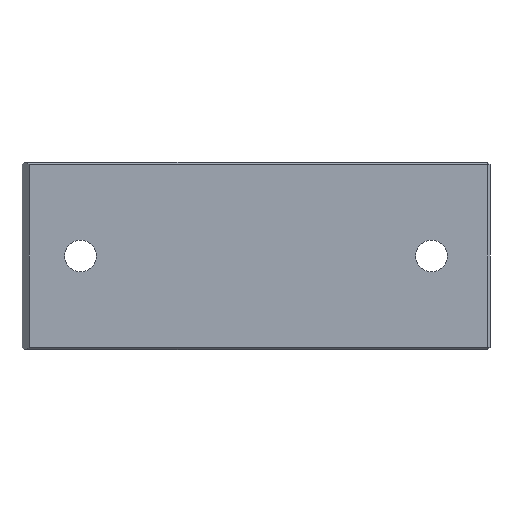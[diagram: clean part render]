
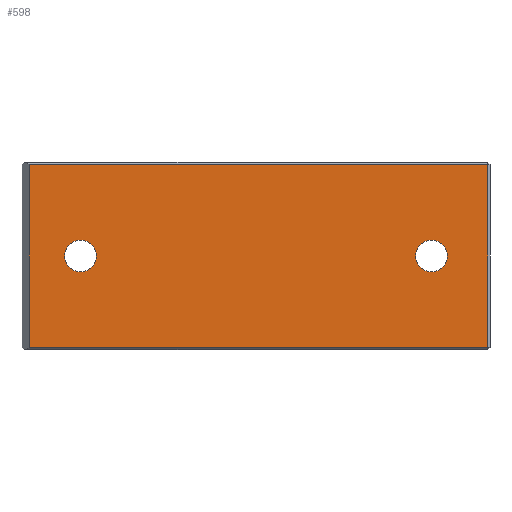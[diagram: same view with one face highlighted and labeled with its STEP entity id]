
A CAD part, front view. The second image highlights one B-rep face of the part: STEP entity #598.
In plain terms, the highlighted planar face has unit normal (0, -1, 0).
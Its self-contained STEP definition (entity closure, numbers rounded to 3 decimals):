
#21=FACE_BOUND('',#117,.T.);
#22=FACE_BOUND('',#118,.T.);
#47=PLANE('',#665);
#79=FACE_OUTER_BOUND('',#116,.T.);
#116=EDGE_LOOP('',(#501,#502,#503,#504));
#117=EDGE_LOOP('',(#505));
#118=EDGE_LOOP('',(#506));
#139=LINE('',#884,#198);
#145=LINE('',#895,#204);
#148=LINE('',#901,#207);
#180=LINE('',#971,#239);
#198=VECTOR('',#720,10.);
#204=VECTOR('',#730,10.);
#207=VECTOR('',#735,10.);
#239=VECTOR('',#807,10.);
#257=CIRCLE('',#666,6.75);
#258=CIRCLE('',#667,6.75);
#275=VERTEX_POINT('',#877);
#277=VERTEX_POINT('',#882);
#280=VERTEX_POINT('',#890);
#281=VERTEX_POINT('',#897);
#301=VERTEX_POINT('',#978);
#302=VERTEX_POINT('',#980);
#325=EDGE_CURVE('',#277,#275,#139,.T.);
#331=EDGE_CURVE('',#275,#280,#145,.T.);
#334=EDGE_CURVE('',#280,#281,#148,.T.);
#370=EDGE_CURVE('',#281,#277,#180,.T.);
#374=EDGE_CURVE('',#301,#301,#257,.T.);
#375=EDGE_CURVE('',#302,#302,#258,.T.);
#501=ORIENTED_EDGE('',*,*,#325,.F.);
#502=ORIENTED_EDGE('',*,*,#370,.F.);
#503=ORIENTED_EDGE('',*,*,#334,.F.);
#504=ORIENTED_EDGE('',*,*,#331,.F.);
#505=ORIENTED_EDGE('',*,*,#374,.T.);
#506=ORIENTED_EDGE('',*,*,#375,.T.);
#598=ADVANCED_FACE('',(#79,#21,#22),#47,.F.);
#665=AXIS2_PLACEMENT_3D('',#977,#815,#816);
#666=AXIS2_PLACEMENT_3D('',#979,#817,#818);
#667=AXIS2_PLACEMENT_3D('',#981,#819,#820);
#720=DIRECTION('',(1.,0.,0.));
#730=DIRECTION('',(0.,0.,-1.));
#735=DIRECTION('',(-1.,0.,0.));
#807=DIRECTION('',(0.,0.,1.));
#815=DIRECTION('center_axis',(0.,1.,0.));
#816=DIRECTION('ref_axis',(0.,0.,1.));
#817=DIRECTION('center_axis',(0.,1.,0.));
#818=DIRECTION('ref_axis',(1.,0.,0.));
#819=DIRECTION('center_axis',(0.,1.,0.));
#820=DIRECTION('ref_axis',(1.,0.,0.));
#877=CARTESIAN_POINT('',(199.,0.,79.));
#882=CARTESIAN_POINT('',(3.,0.,79.));
#884=CARTESIAN_POINT('',(50.,0.,79.));
#890=CARTESIAN_POINT('',(199.,0.,1.));
#895=CARTESIAN_POINT('',(199.,0.,60.));
#897=CARTESIAN_POINT('',(3.,0.,1.));
#901=CARTESIAN_POINT('',(150.,0.,1.));
#971=CARTESIAN_POINT('',(3.,0.,20.));
#977=CARTESIAN_POINT('Origin',(100.,0.,40.));
#978=CARTESIAN_POINT('',(168.25,0.,40.));
#979=CARTESIAN_POINT('Origin',(175.,0.,40.));
#980=CARTESIAN_POINT('',(18.25,0.,40.));
#981=CARTESIAN_POINT('Origin',(25.,0.,40.));
